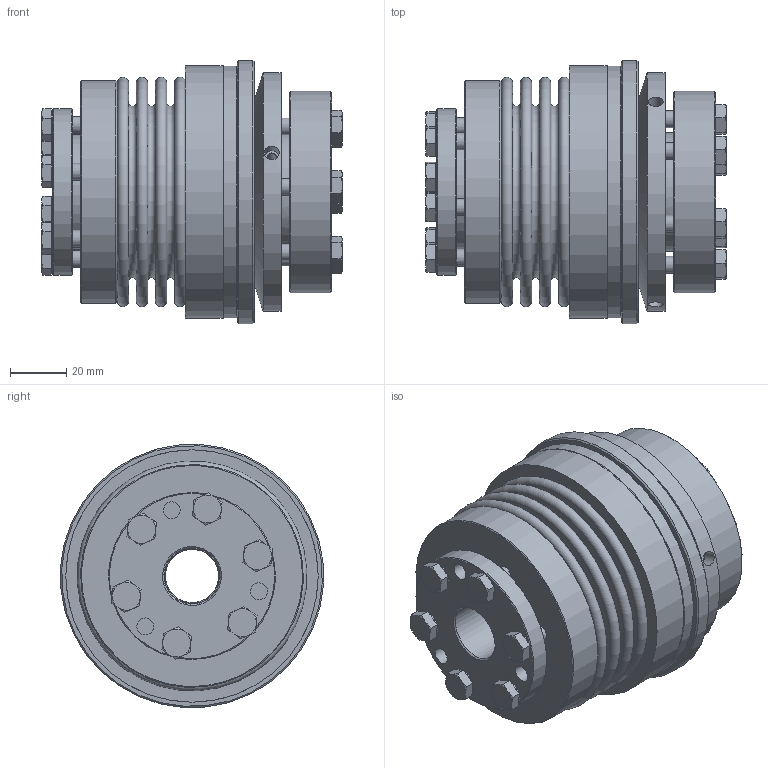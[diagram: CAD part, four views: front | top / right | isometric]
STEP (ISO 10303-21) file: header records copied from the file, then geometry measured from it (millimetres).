
FILE_DESCRIPTION( ( 'Unknown' ), '1' );
FILE_NAME( 'K:/Konstruktion/Korrigierte 3D Modelle/KBK-B-IA/KBK-BIA-80-108.stp', 'Unknown', ( 'Unknown' ), ( 'Unknown' ), 'PSStep 16.0.42', 'Unknown', ' ' );
FILE_SCHEMA( ( 'AUTOMOTIVE_DESIGN { 1 0 10303 214 1 1 1 1 }' ) );
Length unit declared in the file: millimetre
Products named in the file (18): KBK L-A-80 Grundkörper_0; Stellring 80_0; Druckring L-A-80_0; Druckring 80_0; din_en_24017_m6x25_0; BA5-150; Hex Screw GradeC_ISO_ISO 4018 - M6 x 25-WN_4; BA80-150_Standard_4; KB80-150_Standard_4; A-150; Assem1; BK80-150_Standard_3; Flansch BK150
Assembly tree (27 placements, depth 4):
  Assem1
    BK80-150_Standard_3
    Flansch BK150
    BA5-150
      Hex Screw GradeC_ISO_ISO 4018 - M6 x 25-WN_4  x6
      BA80-150_Standard_4
      KB80-150_Standard_4
    A-150
      Stellring 80_0
        Stellring 80_0
      Druckring 80_0
        Druckring 80_0
      KBK L-A-80 Grundkörper_0
        KBK L-A-80 Grundkörper_0
      din_en_24017_m6x25_0  x6
        din_en_24017_m6x25_0
      Druckring L-A-80_0
        Druckring L-A-80_0
Bounding box: 107.25 x 93.82 x 93.82 mm (x, y, z)
Volume: 360697.5 mm3; surface area: 157281 mm2
Topology: 20 solids, 20 shells, 461 faces, 963 edges, 600 vertices
Faces by surface type: plane 224, cone 128, cylinder 86, torus 23
Full cylindrical faces by diameter (mm): 3.242 x3, 4.917 x6, 5 x4, 5.2 x3, 6 x21, 6.6 x12, 8.8 x6, 10 x6, 19 x1, 20 x1, 37.5 x1, 40 x2, 41 x1, 42.29 x1, 48 x1, 52 x1, 58 x1, 59.5 x1, 62 x2, 70 x1, 70.7 x2, 71.9 x2, 72 x1, 79.5 x1, 85 x1, 87 x1, 90 x2, 94 x1
Entity records: 8162 total; most frequent: CARTESIAN_POINT 1358, DIRECTION 1066, ORIENTED_EDGE 664, AXIS2_PLACEMENT_3D 506, EDGE_LOOP 452, EDGE_CURVE 332, FACE_OUTER_BOUND 315, VERTEX_POINT 286
